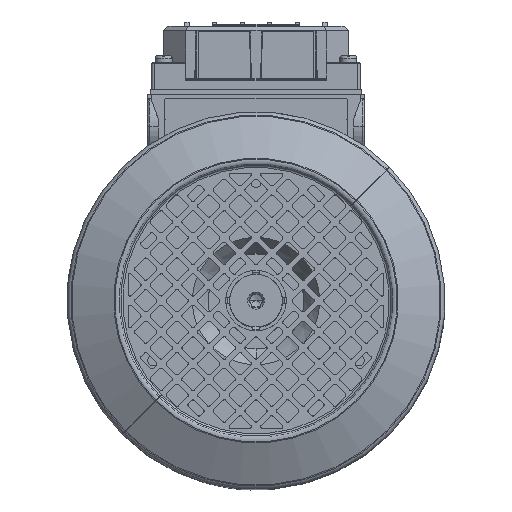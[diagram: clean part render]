
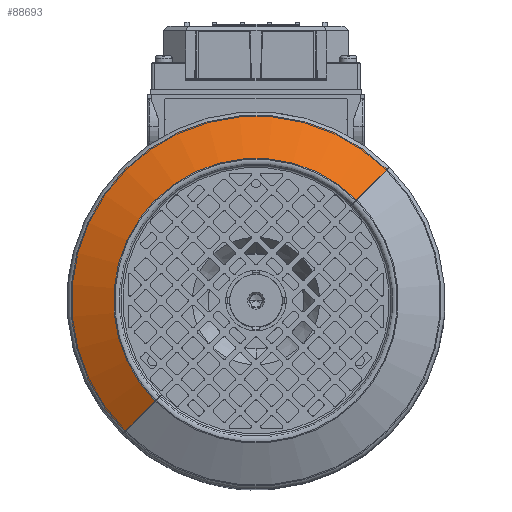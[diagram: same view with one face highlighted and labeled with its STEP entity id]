
A CAD part, top view. The second image highlights one B-rep face of the part: STEP entity #88693.
In plain terms, the highlighted conical face has half-angle 64 degrees and reference radius 87.315 mm.
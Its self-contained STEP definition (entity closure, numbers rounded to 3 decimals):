
#3337 = CARTESIAN_POINT ( 'NONE',  ( 0., 10.139, 0. ) ) ;
#8572 = ORIENTED_EDGE ( 'NONE', *, *, #28610, .T. ) ;
#11768 = DIRECTION ( 'NONE',  ( -1., 0., 0. ) ) ;
#12168 = CARTESIAN_POINT ( 'NONE',  ( 0., 0.253, 0. ) ) ;
#14205 = DIRECTION ( 'NONE',  ( -1., 0., 0. ) ) ;
#15954 = CIRCLE ( 'NONE', #80733, 87.315 ) ;
#16787 = AXIS2_PLACEMENT_3D ( 'NONE', #12168, #70708, #20606 ) ;
#20606 = DIRECTION ( 'NONE',  ( -1., 0., 0. ) ) ;
#24414 = VERTEX_POINT ( 'NONE', #98849 ) ;
#24556 = CIRCLE ( 'NONE', #16787, 67.045 ) ;
#25050 = VECTOR ( 'NONE', #41505, 1000. ) ;
#27791 = ORIENTED_EDGE ( 'NONE', *, *, #73901, .F. ) ;
#28610 = EDGE_CURVE ( 'NONE', #78672, #24414, #94444, .T. ) ;
#28779 = AXIS2_PLACEMENT_3D ( 'NONE', #72747, #55929, #14205 ) ;
#37385 = CARTESIAN_POINT ( 'NONE',  ( -67.045, 0.253, 0. ) ) ;
#38136 = EDGE_CURVE ( 'NONE', #67768, #78672, #24556, .T. ) ;
#41505 = DIRECTION ( 'NONE',  ( 0.899, 0.438, 0. ) ) ;
#42837 = VECTOR ( 'NONE', #100545, 1000. ) ;
#49903 = CONICAL_SURFACE ( 'NONE', #28779, 87.315, 1.117 ) ;
#55929 = DIRECTION ( 'NONE',  ( 0., 1., 0. ) ) ;
#57641 = EDGE_CURVE ( 'NONE', #67768, #72830, #87323, .T. ) ;
#61861 = DIRECTION ( 'NONE',  ( 0., 1., 0. ) ) ;
#64021 = CARTESIAN_POINT ( 'NONE',  ( 67.045, 0.253, 0. ) ) ;
#66428 = ORIENTED_EDGE ( 'NONE', *, *, #38136, .T. ) ;
#67768 = VERTEX_POINT ( 'NONE', #37385 ) ;
#68006 = CARTESIAN_POINT ( 'NONE',  ( -87.315, 10.139, 0. ) ) ;
#70708 = DIRECTION ( 'NONE',  ( 0., 1., 0. ) ) ;
#72747 = CARTESIAN_POINT ( 'NONE',  ( 0., 10.139, 0. ) ) ;
#72830 = VERTEX_POINT ( 'NONE', #68006 ) ;
#73901 = EDGE_CURVE ( 'NONE', #72830, #24414, #15954, .T. ) ;
#74772 = FACE_OUTER_BOUND ( 'NONE', #97545, .T. ) ;
#74901 = CARTESIAN_POINT ( 'NONE',  ( -87.315, 10.139, 0. ) ) ;
#78672 = VERTEX_POINT ( 'NONE', #64021 ) ;
#80733 = AXIS2_PLACEMENT_3D ( 'NONE', #3337, #61861, #11768 ) ;
#82721 = ORIENTED_EDGE ( 'NONE', *, *, #57641, .F. ) ;
#87323 = LINE ( 'NONE', #74901, #42837 ) ;
#88693 = ADVANCED_FACE ( 'NONE', ( #74772 ), #49903, .T. ) ;
#94444 = LINE ( 'NONE', #100072, #25050 ) ;
#97545 = EDGE_LOOP ( 'NONE', ( #66428, #8572, #27791, #82721 ) ) ;
#98849 = CARTESIAN_POINT ( 'NONE',  ( 87.315, 10.139, 0. ) ) ;
#100072 = CARTESIAN_POINT ( 'NONE',  ( 87.315, 10.139, 0. ) ) ;
#100545 = DIRECTION ( 'NONE',  ( -0.899, 0.438, 0. ) ) ;
